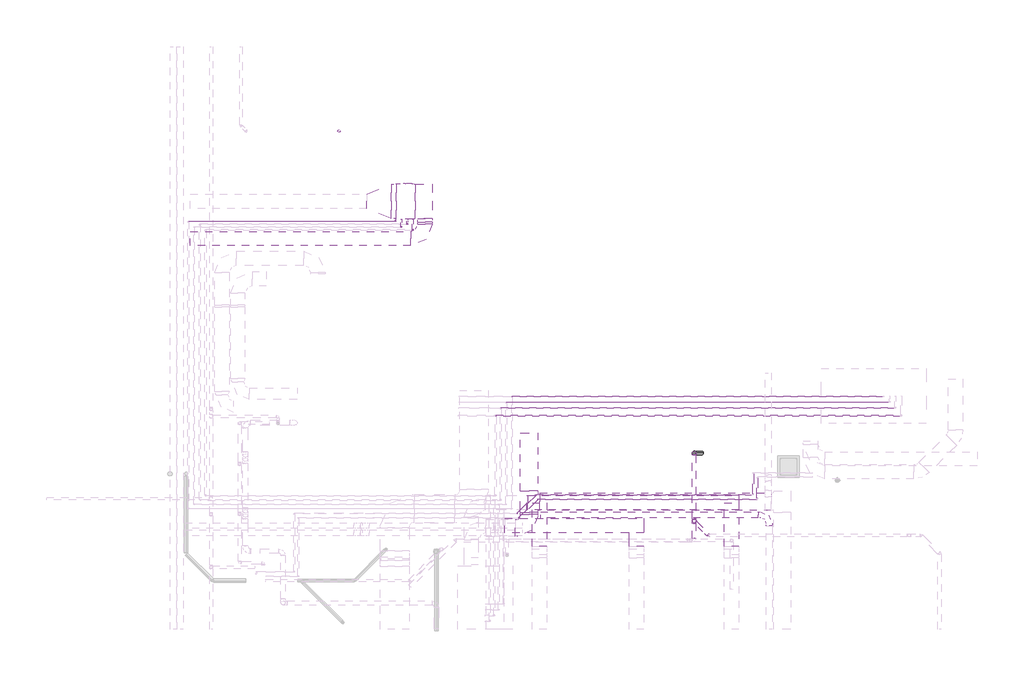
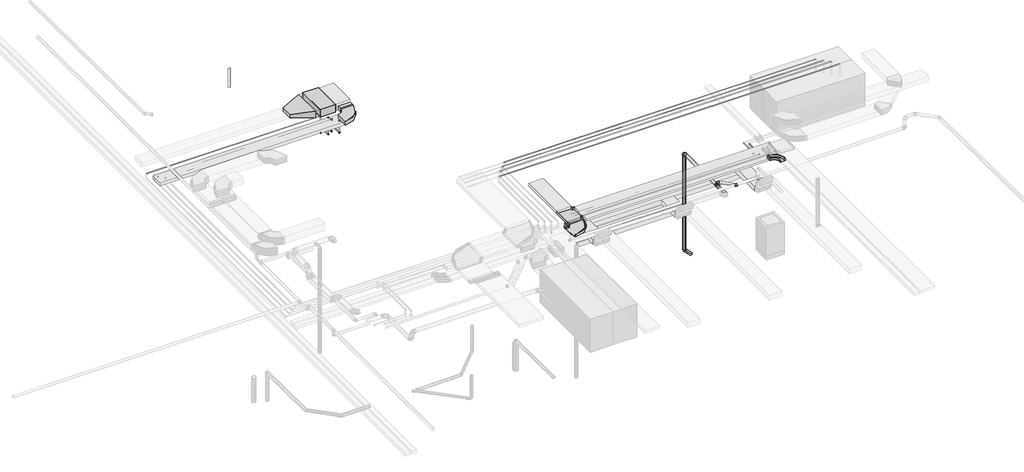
# One storey, part 6 of 10: 25 pipe segments, 18 pipe fittings, 9 duct segments, 4 cable carrier segments, 4 duct fittings, 3 cable carrier fittings, 1 proxy.
"""IFC4 building model written with IfcOpenShell, lengths in millimetres."""

from ifc_helpers import new_model, si_unit, point, frame, frame_2d, origin, place, context, project, spatial, polyline, circle_curve, trimmed, segment, composite_curve, outline, extrude, transform, mapped, element, save
from ifc_brep_helpers import plane_surface, cylinder_surface, advanced_brep
from components import fc02_2b9a1db2, el_radio_300_mm_80008d8d, m_codo_horizontal_de_canal_el_01cafb92, m_codo_horizontal_de_canal_el_e565bebe, duct_fitting_a85104f3, ext_ba5def94, m_codo_rectangular_radio_ext_1_w_33ef8804, m_codo_rectangular_radio_imp_1_w_3cf00d76, pipe_fitting_371413ad, pipe_fitting_52443cc6, pipe_fitting_2e86e572, pipe_fitting_70d1819a, pipe_fitting_d6cfa5ea, pipe_fitting_71d56335, pipe_fitting_754398a6, pipe_fitting_5e89c8c0, pipe_fitting_b0133e01, pipe_fitting_c06ac706

model = new_model("IFC4")

# Units and contexts
model_context = context("Model", 3, world=origin())
ifc_project = project(units=[si_unit("LENGTHUNIT", "METRE", prefix="MILLI")], contexts=[model_context])

# Site, building, storey
site = spatial("IfcSite", under=ifc_project)
building = spatial("IfcBuilding", under=site)
storey = spatial("IfcBuildingStorey", under=building, Name="Nivell 00 P00_PB", Elevation=6330.0)

# Proxy
placement = place(None, origin())
fc02_shape = fc02_2b9a1db2(model_context)
element("IfcBuildingElementProxy", 1, Name="ARC_MDL_ME_UI_FC_ConducteSostre : FC02", ObjectType="ARC_MDL_ME_UI_FC_ConducteSostre : FC02", at=placement, inside=storey, context=model_context, shape_type="MappedRepresentation", body=[
    mapped(fc02_shape, transform((12181.3112528, -4290.0392002, 10480.0), x_axis=(-5.108879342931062e-05, -0.9999999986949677, 0.0), y_axis=(0.9999999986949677, -5.108879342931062e-05, 0.0), z_axis=(0.0, 0.0, 1.0))),
])

# Cable carrier fittings
el_radio_300_mm_shape = el_radio_300_mm_80008d8d(model_context)
element("IfcCableCarrierFitting", 2, ObjectType="M_Te horizontal de canal : EL_Radio 300 mm", at=placement, inside=storey, context=model_context, shape_type="MappedRepresentation", body=[
    mapped(el_radio_300_mm_shape, transform((16481.7684896, -14725.0486096, 10510.0), x_axis=(0.0, 1.0, 0.0), y_axis=(-1.0, 0.0, 0.0), z_axis=(0.0, 0.0, 1.0))),
])
m_codo_horizontal_de_canal_el_shape = m_codo_horizontal_de_canal_el_01cafb92(model_context)
element("IfcCableCarrierFitting", 3, ObjectType="M_Codo horizontal de canal : EL", at=placement, inside=storey, context=model_context, shape_type="MappedRepresentation", body=[
    mapped(m_codo_horizontal_de_canal_el_shape, transform((24821.5359498, -15191.1353243, 10510.0), x_axis=(0.0, 1.0, 0.0), y_axis=(-1.0, 0.0, 0.0), z_axis=(0.0, 0.0, 1.0))),
])
m_codo_horizontal_de_canal_el_2_shape = m_codo_horizontal_de_canal_el_e565bebe(model_context)
element("IfcCableCarrierFitting", 4, ObjectType="M_Codo horizontal de canal : EL", at=placement, inside=storey, context=model_context, shape_type="MappedRepresentation", body=[
    mapped(m_codo_horizontal_de_canal_el_2_shape, transform((16481.7684896, -15638.881498, 10510.0), x_axis=(1.0, 0.0, 0.0), y_axis=(0.0, 1.0, 0.0), z_axis=(0.0, 0.0, 1.0))),
])

# Cable carrier segments
element("IfcCableCarrierSegment", 5, ObjectType="EL", at=placement, inside=storey, context=model_context, shape_type="SweptSolid", body=[
    extrude(outline(polyline([(16781.7684896, -14349.0486096), (16181.7684896, -14349.0486096), (16181.7684896, -12338.9944753), (16781.7684896, -12338.9944753), (16781.7684896, -14349.0486096)])), frame((0.0, 0.0, 10460.0), z_axis=(0.0, 0.0, 1.0), x_axis=(1.0, 0.0, 0.0)), (0.0, 0.0, 1.0), 100.0),
])
element("IfcCableCarrierSegment", 6, ObjectType="EL", at=placement, inside=storey, context=model_context, shape_type="SweptSolid", body=[
    extrude(outline(polyline([(24894.9823979, -14425.0486096), (24894.9823979, -15025.0486096), (16857.7684896, -15025.0486096), (16857.7684896, -14425.0486096), (24894.9823979, -14425.0486096)])), frame((0.0, 0.0, 10460.0), z_axis=(0.0, 0.0, 1.0), x_axis=(1.0, 0.0, 0.0)), (0.0, 0.0, 1.0), 100.0),
])
element("IfcCableCarrierSegment", 7, ObjectType="EL", at=placement, inside=storey, context=model_context, shape_type="SweptSolid", body=[
    extrude(outline(polyline([(16781.7684896, -15163.881498), (16181.7684896, -15163.881498), (16181.7684896, -15101.0486096), (16781.7684896, -15101.0486096), (16781.7684896, -15163.881498)])), frame((0.0, 0.0, 10460.0), z_axis=(0.0, 0.0, 1.0), x_axis=(1.0, 0.0, 0.0)), (0.0, 0.0, 1.0), 100.0),
])
element("IfcCableCarrierSegment", 8, ObjectType="EL", at=placement, inside=storey, context=model_context, shape_type="SweptSolid", body=[
    extrude(outline(polyline([(24446.5359498, -15091.1353243), (24446.5359498, -15291.1353243), (16881.7684896, -15291.1353243), (16881.7684896, -15091.1353243), (24446.5359498, -15091.1353243)])), frame((0.0, 0.0, 10460.0), z_axis=(0.0, 0.0, 1.0), x_axis=(1.0, 0.0, 0.0)), (0.0, 0.0, 1.0), 100.0),
])

# Duct fittings
duct_fitting_shape = duct_fitting_a85104f3(model_context)
element("IfcDuctFitting", 9, ObjectType="M_Transición rectangular - Ángulo : EXT_45 graus", at=placement, inside=storey, context=model_context, shape_type="MappedRepresentation", body=[
    mapped(duct_fitting_shape, transform((11691.1365641, -4290.0141577, 10637.5), x_axis=(-0.9999999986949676, 5.1088793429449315e-05, 0.0), y_axis=(-5.1088793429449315e-05, -0.9999999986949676, 0.0), z_axis=(0.0, 0.0, 1.0))),
])
ext_shape = ext_ba5def94(model_context)
element("IfcDuctFitting", 10, ObjectType="M_Toma de derivación rectangular : EXT", at=placement, inside=storey, context=model_context, shape_type="MappedRepresentation", body=[
    mapped(ext_shape, transform((12873.311255, -4890.0566725, 10587.5), x_axis=(0.0, -1.0, 0.0), y_axis=(-1.0, 0.0, 0.0), z_axis=(0.0, 0.0, -1.0))),
])
m_codo_rectangular_radio_ext_1_w_shape = m_codo_rectangular_radio_ext_1_w_33ef8804(model_context)
element("IfcDuctFitting", 11, ObjectType="M_Codo rectangular - Radio : EXT_1 W", at=placement, inside=storey, context=model_context, shape_type="MappedRepresentation", body=[
    mapped(m_codo_rectangular_radio_ext_1_w_shape, transform((12873.311255, -5586.5453487, 10587.5), x_axis=(1.0, 0.0, 0.0), y_axis=(0.0, 1.0, 0.0), z_axis=(0.0, 0.0, 1.0))),
])
m_codo_rectangular_radio_imp_1_w_shape = m_codo_rectangular_radio_imp_1_w_3cf00d76(model_context)
element("IfcDuctFitting", 12, ObjectType="M_Codo rectangular - Radio : IMP_1 W", at=placement, inside=storey, context=model_context, shape_type="MappedRepresentation", body=[
    mapped(m_codo_rectangular_radio_imp_1_w_shape, transform((16423.3650067, -14763.9966623, 9974.1161837), x_axis=(0.9953890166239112, 0.0, -0.09592030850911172), y_axis=(0.09592030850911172, 0.0, 0.9953890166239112), z_axis=(0.0, -1.0, 0.0))),
])

# Duct segments
element("IfcDuctSegment", 13, ObjectType="EXT_Planxa galvanitzada", at=placement, inside=storey, context=model_context, shape_type="SweptSolid", body=[
    extrude(outline(polyline([(12523.311255, -4890.0566725), (12523.311255, -3690.0566725), (13123.311255, -3690.0566725), (13123.311255, -4890.0566725), (12523.311255, -4890.0566725)])), frame((0.0, 0.0, 10500.0), z_axis=(0.0, 0.0, 1.0), x_axis=(1.0, 0.0, 0.0)), (0.0, 0.0, 1.0), 275.0),
])
element("IfcDuctSegment", 14, ObjectType="EXT_Planxa galvanitzada", at=placement, inside=storey, context=model_context, shape_type="SweptSolid", body=[
    extrude(outline(polyline([(4721.3474083, -5836.599281), (4721.3438842, -5336.599281), (12373.3094929, -5336.5453487), (12373.313017, -5836.5453487), (4721.3474083, -5836.599281)])), frame((0.0, 0.0, 10512.5), z_axis=(0.0, 0.0, 1.0), x_axis=(1.0, 0.0, 0.0)), (0.0, 0.0, 1.0), 150.0),
])
element("IfcDuctSegment", 15, ObjectType="EXT_Planxa galvanitzada", at=placement, inside=storey, context=model_context, shape_type="SweptSolid", body=[
    extrude(outline(polyline([(13123.311255, -5086.5453487), (12623.311255, -5086.5453487), (12623.311255, -5015.0566725), (13123.311255, -5015.0566725), (13123.311255, -5086.5453487)])), frame((0.0, 0.0, 10512.5), z_axis=(0.0, 0.0, 1.0), x_axis=(1.0, 0.0, 0.0)), (0.0, 0.0, 1.0), 150.0),
])
element("IfcDuctSegment", 16, ObjectType="EXT_Planxa galvanitzada", at=placement, inside=storey, context=model_context, shape_type="SweptSolid", body=[
    extrude(outline(polyline([(11866.3419065, -3690.023108), (11866.2805999, -4890.0231064), (11691.1059109, -4890.0141569), (11691.1672174, -3690.0141585), (11866.3419065, -3690.023108)])), frame((0.0, 0.0, 10500.0), z_axis=(0.0, 0.0, 1.0), x_axis=(1.0, 0.0, 0.0)), (0.0, 0.0, 1.0), 275.0),
])
element("IfcDuctSegment", 17, ObjectType="IMP_Fibra de vidre rígida", at=placement, inside=storey, context=model_context, shape_type="SweptSolid", body=[
    extrude(outline(polyline([(16432.979203, -15013.9966623), (16432.979203, -14513.9966623), (23764.812091, -14513.9966623), (23764.812091, -15013.9966623), (16432.979203, -15013.9966623)])), frame((0.0, 0.0, 9874.1161837), z_axis=(0.0, 0.0, 1.0), x_axis=(1.0, 0.0, 0.0)), (0.0, 0.0, 1.0), 200.0),
])
element("IfcDuctSegment", 18, ObjectType="IMP_Fibra de vidre rígida", at=placement, inside=storey, context=model_context, shape_type="SweptSolid", body=[
    extrude(outline(polyline([(20463.0832095, -15313.9966623), (20463.0832095, -15813.9966623), (15627.8514862, -15813.9966623), (15627.8514862, -15313.9966623), (20463.0832095, -15313.9966623)])), frame((0.0, 0.0, 9874.1161837), z_axis=(0.0, 0.0, 1.0), x_axis=(1.0, 0.0, 0.0)), (0.0, 0.0, 1.0), 200.0),
])
element("IfcDuctSegment", 19, ObjectType="IMP_Fibra de vidre rígida", at=placement, inside=storey, context=model_context, shape_type="SweptSolid", body=[
    extrude(outline(polyline([(17090.3123465, -16273.9966623), (16590.3123465, -16273.9966623), (16590.3123465, -14763.9966623), (17090.3123465, -14763.9966623), (17090.3123465, -16273.9966623)])), frame((0.0, 0.0, 10130.0), z_axis=(0.0, 0.0, 1.0), x_axis=(1.0, 0.0, 0.0)), (0.0, 0.0, 1.0), 200.0),
])
element("IfcDuctSegment", 20, ObjectType="IMP_Fibra de vidre rígida", at=placement, inside=storey, context=model_context, shape_type="SweptSolid", body=[
    extrude(outline(polyline([(20463.0832095, -16273.9966623), (19963.0832095, -16273.9966623), (19963.0832095, -15313.9966623), (20463.0832095, -15313.9966623), (20463.0832095, -16273.9966623)])), frame((0.0, 0.0, 10130.0), z_axis=(0.0, 0.0, 1.0), x_axis=(1.0, 0.0, 0.0)), (0.0, 0.0, 1.0), 200.0),
])
element("IfcDuctSegment", 21, ObjectType="IMP_Fibra de vidre rígida", at=placement, inside=storey, context=model_context, shape_type="SweptSolid", body=[
    extrude(outline(polyline([(23764.812091, -16273.9966623), (23264.812091, -16273.9966623), (23264.812091, -14763.9966623), (23764.812091, -14763.9966623), (23764.812091, -16273.9966623)])), frame((0.0, 0.0, 10130.0), z_axis=(0.0, 0.0, 1.0), x_axis=(1.0, 0.0, 0.0)), (0.0, 0.0, 1.0), 200.0),
])

# Pipe fittings
pipe_fitting_shape = pipe_fitting_371413ad(model_context)
element("IfcPipeFitting", 22, ObjectType="M_Codo - Genérico : Estándar", at=placement, inside=storey, context=model_context, shape_type="MappedRepresentation", body=[
    mapped(pipe_fitting_shape, transform((12244.9862258, -5085.4098622, 9810.0), x_axis=(-5.1088793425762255e-05, -0.9999999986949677, 0.0), y_axis=(0.0, 0.0, 1.0000000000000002), z_axis=(-0.9999999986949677, 5.1088793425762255e-05, 0.0))),
])
element("IfcPipeFitting", 23, ObjectType="M_Codo - Genérico : Estándar", at=placement, inside=storey, context=model_context, shape_type="MappedRepresentation", body=[
    mapped(pipe_fitting_shape, transform((12244.9862258, -5085.4098621, 10360.0), x_axis=(0.0, 0.0, 1.0), y_axis=(-0.9999999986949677, 5.108879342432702e-05, 0.0), z_axis=(-5.108879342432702e-05, -0.9999999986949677, 0.0))),
])
element("IfcPipeFitting", 24, ObjectType="M_Codo - Genérico : Estándar", at=placement, inside=storey, context=model_context, shape_type="MappedRepresentation", body=[
    mapped(pipe_fitting_shape, transform((12444.9969738, -5285.4409702, 9810.0), x_axis=(-5.108879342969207e-05, -0.9999999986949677, 0.0), y_axis=(0.0, 0.0, 1.0000000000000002), z_axis=(-0.9999999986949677, 5.108879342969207e-05, 0.0))),
])
element("IfcPipeFitting", 25, ObjectType="M_Codo - Genérico : Estándar", at=placement, inside=storey, context=model_context, shape_type="MappedRepresentation", body=[
    mapped(pipe_fitting_shape, transform((12444.9969738, -5285.4409701, 10360.0), x_axis=(0.0, 0.0, 1.0), y_axis=(-0.9999999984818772, 5.510214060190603e-05, 0.0), z_axis=(-5.510214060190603e-05, -0.9999999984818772, 0.0))),
])
pipe_fitting_2_shape = pipe_fitting_52443cc6(model_context)
element("IfcPipeFitting", 26, ObjectType="M_Codo - Genérico : Estándar", at=placement, inside=storey, context=model_context, shape_type="MappedRepresentation", body=[
    mapped(pipe_fitting_2_shape, transform((16069.0021338, -15144.0618162, 10363.0088186), x_axis=(1.0, 0.0, 0.0), y_axis=(0.0, 1.0, 0.0), z_axis=(0.0, 0.0, 1.0))),
])
element("IfcPipeFitting", 27, ObjectType="M_Codo - Genérico : Estándar", at=placement, inside=storey, context=model_context, shape_type="MappedRepresentation", body=[
    mapped(pipe_fitting_2_shape, transform((16719.0021452, -14494.0618048, 10363.0088186), x_axis=(-1.0, 0.0, 0.0), y_axis=(0.0, -1.0, 0.0), z_axis=(0.0, 0.0, 1.0))),
])
element("IfcPipeFitting", 28, ObjectType="M_Codo - Genérico : Estándar", at=placement, inside=storey, context=model_context, shape_type="MappedRepresentation", body=[
    mapped(pipe_fitting_2_shape, transform((16131.1343664, -15294.0616179, 10363.0088186), x_axis=(1.0, 0.0, 0.0), y_axis=(0.0, 1.0, 0.0), z_axis=(0.0, 0.0, 1.0))),
])
pipe_fitting_3_shape = pipe_fitting_2e86e572(model_context)
element("IfcPipeFitting", 29, ObjectType="M_Codo - Genérico : Estándar", at=placement, inside=storey, context=model_context, shape_type="MappedRepresentation", body=[
    mapped(pipe_fitting_3_shape, transform((16781.1343005, -14644.0616838, 10363.0088186), x_axis=(-1.0, 1.1622379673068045e-08, 0.0), y_axis=(-1.1622379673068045e-08, -1.0, 0.0), z_axis=(0.0, 0.0, 1.0))),
])
pipe_fitting_4_shape = pipe_fitting_70d1819a(model_context)
element("IfcPipeFitting", 30, ObjectType="M_Transición - Genérica : Estándar", at=placement, inside=storey, context=model_context, shape_type="MappedRepresentation", body=[
    mapped(pipe_fitting_4_shape, transform((22211.9752462, -15400.6940396, 10297.2895225), x_axis=(0.0, 0.0, 1.0), y_axis=(1.0, 0.0, 0.0), z_axis=(0.0, 1.0, 0.0))),
])
pipe_fitting_5_shape = pipe_fitting_d6cfa5ea(model_context)
element("IfcPipeFitting", 31, ObjectType="M_Codo - Genérico : Estándar", at=placement, inside=storey, context=model_context, shape_type="MappedRepresentation", body=[
    mapped(pipe_fitting_5_shape, transform((22211.9752462, -13037.7395242, 5980.0), x_axis=(0.0, 0.0, -1.0), y_axis=(1.0, 0.0, 0.0), z_axis=(0.0, -1.0, 0.0))),
])
pipe_fitting_6_shape = pipe_fitting_71d56335(model_context)
element("IfcPipeFitting", 32, ObjectType="M_Codo - Genérico : Estándar", at=placement, inside=storey, context=model_context, shape_type="MappedRepresentation", body=[
    mapped(pipe_fitting_6_shape, transform((22211.9752462, -15400.6940396, 10362.9891151), x_axis=(0.0, 0.0, 1.0), y_axis=(0.7071067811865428, -0.7071067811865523, 0.0), z_axis=(0.7071067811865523, 0.7071067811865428, 0.0))),
])
pipe_fitting_7_shape = pipe_fitting_754398a6(model_context)
element("IfcPipeFitting", 33, ObjectType="M_Codo - Genérico : Estándar", at=placement, inside=storey, context=model_context, shape_type="MappedRepresentation", body=[
    mapped(pipe_fitting_7_shape, transform((22710.255545, -15898.9743384, 10370.0), x_axis=(0.707071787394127, -0.707071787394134, 0.009948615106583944), y_axis=(0.7070710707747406, 0.7071300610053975, 0.0041925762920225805), z_axis=(-0.009999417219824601, 0.004069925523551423, 0.9999417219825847))),
])
pipe_fitting_8_shape = pipe_fitting_5e89c8c0(model_context)
element("IfcPipeFitting", 34, ObjectType="M_Codo - Genérico : Estándar", at=placement, inside=storey, context=model_context, shape_type="MappedRepresentation", body=[
    mapped(pipe_fitting_8_shape, transform((22211.9752462, -13037.7395242, 10195.8839232), x_axis=(0.0, 0.9999500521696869, -0.009994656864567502), y_axis=(0.0, -0.009994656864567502, -0.9999500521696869), z_axis=(-1.0, 0.0, 0.0))),
])
pipe_fitting_9_shape = pipe_fitting_b0133e01(model_context)
element("IfcPipeFitting", 35, ObjectType="M_Te - Genérica : Estándar", at=placement, inside=storey, context=model_context, shape_type="MappedRepresentation", body=[
    mapped(pipe_fitting_9_shape, transform((22211.9752462, -15400.6940396, 10219.5020225), x_axis=(0.0, -0.9999500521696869, 0.009994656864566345), y_axis=(0.0, -0.009994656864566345, -0.9999500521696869), z_axis=(1.0, 0.0, 0.0))),
])
pipe_fitting_10_shape = pipe_fitting_c06ac706(model_context)
element("IfcPipeFitting", 36, ObjectType="M_Codo - Genérico : Estándar", at=placement, inside=storey, context=model_context, shape_type="MappedRepresentation", body=[
    mapped(pipe_fitting_10_shape, transform((11844.9668462, -4985.3732795, 9817.5), x_axis=(-5.108879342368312e-05, -0.9999999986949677, 0.0), y_axis=(0.0, 0.0, 1.0000000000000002), z_axis=(-0.9999999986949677, 5.108879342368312e-05, 0.0))),
])
element("IfcPipeFitting", 37, ObjectType="M_Codo - Genérico : Estándar", at=placement, inside=storey, context=model_context, shape_type="MappedRepresentation", body=[
    mapped(pipe_fitting_10_shape, transform((12044.9759983, -5185.3892996, 9817.5), x_axis=(-5.108879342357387e-05, -0.9999999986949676, 0.0), y_axis=(0.0, 0.0, 1.0), z_axis=(-0.9999999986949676, 5.108879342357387e-05, 0.0))),
])
element("IfcPipeFitting", 38, ObjectType="M_Codo - Genérico : Estándar", at=placement, inside=storey, context=model_context, shape_type="MappedRepresentation", body=[
    mapped(pipe_fitting_10_shape, transform((12044.9759983, -5185.3892996, 10567.5), x_axis=(0.0, 0.0, 1.0), y_axis=(-0.9999999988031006, 4.892646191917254e-05, 0.0), z_axis=(-4.892646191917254e-05, -0.9999999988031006, 0.0))),
])
element("IfcPipeFitting", 39, ObjectType="M_Codo - Genérico : Estándar", at=placement, inside=storey, context=model_context, shape_type="MappedRepresentation", body=[
    mapped(pipe_fitting_10_shape, transform((11844.9668462, -4985.3732795, 10567.5), x_axis=(0.0, 0.0, 1.0), y_axis=(-0.9999999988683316, 4.75745428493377e-05, 0.0), z_axis=(-4.75745428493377e-05, -0.9999999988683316, 0.0))),
])

# Pipe segments
element("IfcPipeSegment", 40, ObjectType="PPR_CLI_Aquatherm Blue Pipe", at=placement, inside=storey, context=model_context, shape_type="SweptSolid", body=[
    extrude(outline(composite_curve([segment(trimmed(circle_curve(frame_2d((0.0, -12.5)), 12.5), [point((-12.5, -12.5))], [point((0.0, 0.0))], False, "CARTESIAN"), True, "CONTINUOUS"), segment(trimmed(circle_curve(frame_2d((0.0, -12.5)), 12.5), [point((0.0, 0.0))], [point((12.5, -12.5))], False, "CARTESIAN"), True, "CONTINUOUS"), segment(trimmed(circle_curve(frame_2d((0.0, -12.5)), 12.5), [point((12.5, -12.5))], [point((0.0, -25.0))], False, "CARTESIAN"), True, "CONTINUOUS"), segment(trimmed(circle_curve(frame_2d((0.0, -12.5)), 12.5), [point((0.0, -25.0))], [point((-12.5, -12.5))], False, "CARTESIAN"), True, "CONTINUOUS")], self_intersect=False)), frame((11824.3293462, -4985.3722977, 10555.0), z_axis=(-0.9999999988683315, 4.757454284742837e-05, 0.0), x_axis=(4.757454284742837e-05, 0.9999999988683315, 0.0)), (0.0, 0.0, 1.0), 7157.9868192),
])
element("IfcPipeSegment", 41, ObjectType="PPR_CLI_Aquatherm Blue Pipe", at=placement, inside=storey, context=model_context, shape_type="SweptSolid", body=[
    extrude(outline(composite_curve([segment(trimmed(circle_curve(frame_2d((0.0, 12.5)), 12.5), [point((-12.5, 12.5))], [point((0.0, 25.0))], False, "CARTESIAN"), True, "CONTINUOUS"), segment(trimmed(circle_curve(frame_2d((0.0, 12.5)), 12.5), [point((0.0, 25.0))], [point((12.5, 12.5))], False, "CARTESIAN"), True, "CONTINUOUS"), segment(trimmed(circle_curve(frame_2d((0.0, 12.5)), 12.5), [point((12.5, 12.5))], [point((0.0, 0.0))], False, "CARTESIAN"), True, "CONTINUOUS"), segment(trimmed(circle_curve(frame_2d((0.0, 12.5)), 12.5), [point((0.0, 0.0))], [point((-12.5, 12.5))], False, "CARTESIAN"), True, "CONTINUOUS")], self_intersect=False)), frame((28778.9216972, -11074.9742269, 10797.5), z_axis=(-0.9999999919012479, 0.00012726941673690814, 0.0), x_axis=(-0.00012726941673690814, -0.9999999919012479, 0.0)), (0.0, 0.0, 1.0), 12876.7618539),
])
element("IfcPipeSegment", 42, ObjectType="PVC_Baixant", at=placement, inside=storey, context=model_context, shape_type="SweptSolid", body=[
    extrude(outline(composite_curve([segment(trimmed(circle_curve(frame_2d((0.0, 45.0)), 45.0), [point((-45.0, 45.0))], [point((0.0, 90.0))], False, "CARTESIAN"), True, "CONTINUOUS"), segment(trimmed(circle_curve(frame_2d((0.0, 45.0)), 45.0), [point((0.0, 90.0))], [point((45.0, 45.0))], False, "CARTESIAN"), True, "CONTINUOUS"), segment(trimmed(circle_curve(frame_2d((0.0, 45.0)), 45.0), [point((45.0, 45.0))], [point((0.0, 0.0))], False, "CARTESIAN"), True, "CONTINUOUS"), segment(trimmed(circle_curve(frame_2d((0.0, 45.0)), 45.0), [point((0.0, 0.0))], [point((-45.0, 45.0))], False, "CARTESIAN"), True, "CONTINUOUS")], self_intersect=False)), frame((9883.2046186, -1896.555082, 10633.2828533), z_axis=(-2.4929048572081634e-05, 8.365023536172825e-06, 0.9999999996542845), x_axis=(0.9999999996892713, 2.0853185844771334e-10, 2.4929048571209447e-05)), (0.0, 0.0, 1.0), 796.7175297),
])
element("IfcPipeSegment", 43, ObjectType="PPR_CLI_Aquatherm Blue Pipe", at=placement, inside=storey, context=model_context, shape_type="SweptSolid", body=[
    extrude(outline(composite_curve([segment(trimmed(circle_curve(frame_2d((0.0, -12.5)), 12.5), [point((-12.5, -12.5))], [point((0.0, 0.0))], False, "CARTESIAN"), True, "CONTINUOUS"), segment(trimmed(circle_curve(frame_2d((0.0, -12.5)), 12.5), [point((0.0, 0.0))], [point((12.5, -12.5))], False, "CARTESIAN"), True, "CONTINUOUS"), segment(trimmed(circle_curve(frame_2d((0.0, -12.5)), 12.5), [point((12.5, -12.5))], [point((0.0, -25.0))], False, "CARTESIAN"), True, "CONTINUOUS"), segment(trimmed(circle_curve(frame_2d((0.0, -12.5)), 12.5), [point((0.0, -25.0))], [point((-12.5, -12.5))], False, "CARTESIAN"), True, "CONTINUOUS")], self_intersect=False)), frame((28978.9217099, -11275.7182222, 10797.5), z_axis=(-0.9999999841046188, 0.00017829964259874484, 0.0), x_axis=(0.00017829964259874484, 0.9999999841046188, 0.0)), (0.0, 0.0, 1.0), 13276.770731),
])
element("IfcPipeSegment", 44, ObjectType="PPR_CLI_Aquatherm Blue Pipe", at=placement, inside=storey, context=model_context, shape_type="SweptSolid", body=[
    extrude(outline(composite_curve([segment(trimmed(circle_curve(frame_2d((0.0, 20.0)), 20.0), [point((-20.0, 20.0))], [point((0.0, 40.0))], False, "CARTESIAN"), True, "CONTINUOUS"), segment(trimmed(circle_curve(frame_2d((0.0, 20.0)), 20.0), [point((0.0, 40.0))], [point((20.0, 20.0))], False, "CARTESIAN"), True, "CONTINUOUS"), segment(trimmed(circle_curve(frame_2d((0.0, 20.0)), 20.0), [point((20.0, 20.0))], [point((0.0, 0.0))], False, "CARTESIAN"), True, "CONTINUOUS"), segment(trimmed(circle_curve(frame_2d((0.0, 20.0)), 20.0), [point((0.0, 0.0))], [point((-20.0, 20.0))], False, "CARTESIAN"), True, "CONTINUOUS")], self_intersect=False)), frame((29172.5716841, -11473.4382958, 10790.0), z_axis=(-0.9999999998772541, 1.5668184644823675e-05, 0.0), x_axis=(-1.5668184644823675e-05, -0.9999999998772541, 0.0)), (0.0, 0.0, 1.0), 13655.4275415),
])
element("IfcPipeSegment", 45, ObjectType="PPR_CLI_Aquatherm Blue Pipe", at=placement, inside=storey, context=model_context, shape_type="SweptSolid", body=[
    extrude(outline(composite_curve([segment(trimmed(circle_curve(frame_2d((0.0, 20.0)), 20.0), [point((-20.0, 20.0))], [point((0.0, 40.0))], False, "CARTESIAN"), True, "CONTINUOUS"), segment(trimmed(circle_curve(frame_2d((0.0, 20.0)), 20.0), [point((0.0, 40.0))], [point((20.0, 20.0))], False, "CARTESIAN"), True, "CONTINUOUS"), segment(trimmed(circle_curve(frame_2d((0.0, 20.0)), 20.0), [point((20.0, 20.0))], [point((0.0, 0.0))], False, "CARTESIAN"), True, "CONTINUOUS"), segment(trimmed(circle_curve(frame_2d((0.0, 20.0)), 20.0), [point((0.0, 0.0))], [point((-20.0, 20.0))], False, "CARTESIAN"), True, "CONTINUOUS")], self_intersect=False)), frame((29372.5716841, -11743.4408895, 10790.0), z_axis=(-0.9999999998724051, 1.5974667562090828e-05, 0.0), x_axis=(-1.5974667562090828e-05, -0.9999999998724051, 0.0)), (0.0, 0.0, 1.0), 14035.4375242),
])
element("IfcPipeSegment", 46, ObjectType="PPR_CLI_Aquatherm Blue Pipe", at=placement, inside=storey, context=model_context, shape_type="SweptSolid", body=[
    extrude(outline(composite_curve([segment(trimmed(circle_curve(frame_2d((0.0, -20.0)), 20.0), [point((0.0, 0.0))], [point((20.0, -20.0))], False, "CARTESIAN"), True, "CONTINUOUS"), segment(trimmed(circle_curve(frame_2d((0.0, -20.0)), 20.0), [point((20.0, -20.0))], [point((0.0, -39.9999999))], False, "CARTESIAN"), True, "CONTINUOUS"), segment(trimmed(circle_curve(frame_2d((0.0, -20.0)), 20.0), [point((0.0, -39.9999999))], [point((-20.0, -20.0))], False, "CARTESIAN"), True, "CONTINUOUS"), segment(trimmed(circle_curve(frame_2d((0.0, -20.0)), 20.0), [point((-20.0, -20.0))], [point((0.0, 0.0))], False, "CARTESIAN"), True, "CONTINUOUS")], self_intersect=False)), frame((12424.9983526, -5258.4525866, 9810.0), z_axis=(4.4180028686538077e-05, 0.9999999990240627, 0.0), x_axis=(0.0, 0.0, -1.0)), (0.0, 0.0, 1.0), 348.543846),
])
element("IfcPipeSegment", 47, ObjectType="PPR_CLI_Aquatherm Blue Pipe", at=placement, inside=storey, context=model_context, shape_type="SweptSolid", body=[
    extrude(outline(composite_curve([segment(trimmed(circle_curve(frame_2d((0.0, -20.0)), 20.0), [point((0.0, 0.0))], [point((20.0, -20.0))], False, "CARTESIAN"), True, "CONTINUOUS"), segment(trimmed(circle_curve(frame_2d((0.0, -20.0)), 20.0), [point((20.0, -20.0))], [point((0.0, -40.0000001))], False, "CARTESIAN"), True, "CONTINUOUS"), segment(trimmed(circle_curve(frame_2d((0.0, -20.0)), 20.0), [point((0.0, -40.0000001))], [point((-20.0, -20.0))], False, "CARTESIAN"), True, "CONTINUOUS"), segment(trimmed(circle_curve(frame_2d((0.0, -20.0)), 20.0), [point((-20.0, -20.0))], [point((0.0, 0.0))], False, "CARTESIAN"), True, "CONTINUOUS")], self_intersect=False)), frame((12224.9876045, -5058.4213405, 9810.0), z_axis=(5.108879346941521e-05, 0.9999999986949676, 0.0), x_axis=(0.0, 0.0, -1.0)), (0.0, 0.0, 1.0), 148.5229565),
])
element("IfcPipeSegment", 48, ObjectType="PPR_CLI_Aquatherm Blue Pipe", at=placement, inside=storey, context=model_context, shape_type="SweptSolid", body=[
    extrude(outline(composite_curve([segment(trimmed(circle_curve(frame_2d((0.0, -12.5)), 12.5), [point((0.0, 0.0))], [point((12.5, -12.5))], False, "CARTESIAN"), True, "CONTINUOUS"), segment(trimmed(circle_curve(frame_2d((0.0, -12.5)), 12.5), [point((12.5, -12.5))], [point((0.0, -25.0))], False, "CARTESIAN"), True, "CONTINUOUS"), segment(trimmed(circle_curve(frame_2d((0.0, -12.5)), 12.5), [point((0.0, -25.0))], [point((-12.5, -12.5))], False, "CARTESIAN"), True, "CONTINUOUS"), segment(trimmed(circle_curve(frame_2d((0.0, -12.5)), 12.5), [point((-12.5, -12.5))], [point((0.0, 0.0))], False, "CARTESIAN"), True, "CONTINUOUS")], self_intersect=False)), frame((12032.4770527, -5164.7518491, 9817.5), z_axis=(-3.957353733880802e-06, 0.9999999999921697, 0.0), x_axis=(0.0, 0.0, -1.0)), (0.0, 0.0, 1.0), 254.8626124),
])
element("IfcPipeSegment", 49, ObjectType="PPR_CLI_Aquatherm Blue Pipe", at=placement, inside=storey, context=model_context, shape_type="SweptSolid", body=[
    extrude(outline(composite_curve([segment(trimmed(circle_curve(frame_2d((0.0, -12.5)), 12.5), [point((0.0, 0.0))], [point((12.5, -12.5))], False, "CARTESIAN"), True, "CONTINUOUS"), segment(trimmed(circle_curve(frame_2d((0.0, -12.5)), 12.5), [point((12.5, -12.5))], [point((0.0, -25.0))], False, "CARTESIAN"), True, "CONTINUOUS"), segment(trimmed(circle_curve(frame_2d((0.0, -12.5)), 12.5), [point((0.0, -25.0))], [point((-12.5, -12.5))], False, "CARTESIAN"), True, "CONTINUOUS"), segment(trimmed(circle_curve(frame_2d((0.0, -12.5)), 12.5), [point((-12.5, -12.5))], [point((0.0, 0.0))], False, "CARTESIAN"), True, "CONTINUOUS")], self_intersect=False)), frame((11832.4679008, -4964.7381529, 9817.5), z_axis=(-0.0001898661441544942, 0.9999999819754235, 0.0), x_axis=(0.0, 0.0, -1.0)), (0.0, 0.0, 1.0), 54.8568121),
])
element("IfcPipeSegment", 50, ObjectType="PPR_CLI_Aquatherm Blue Pipe", at=placement, inside=storey, context=model_context, shape_type="SweptSolid", body=[
    extrude(outline(composite_curve([segment(trimmed(circle_curve(frame_2d((11844.9668462, -4985.3732795)), 12.5), [point((11832.4668462, -4985.3732795))], [point((11844.9668462, -4972.8732795))], False, "CARTESIAN"), True, "CONTINUOUS"), segment(trimmed(circle_curve(frame_2d((11844.9668462, -4985.3732795)), 12.5), [point((11844.9668462, -4972.8732795))], [point((11857.4668462, -4985.3732795))], False, "CARTESIAN"), True, "CONTINUOUS"), segment(trimmed(circle_curve(frame_2d((11844.9668462, -4985.3732795)), 12.5), [point((11857.4668462, -4985.3732795))], [point((11844.9668462, -4997.8732795))], False, "CARTESIAN"), True, "CONTINUOUS"), segment(trimmed(circle_curve(frame_2d((11844.9668462, -4985.3732795)), 12.5), [point((11844.9668462, -4997.8732795))], [point((11832.4668462, -4985.3732795))], False, "CARTESIAN"), True, "CONTINUOUS")], self_intersect=False)), frame((0.0, 0.0, 9838.1375), z_axis=(0.0, 0.0, 1.0), x_axis=(1.0, 0.0, 0.0)), (0.0, 0.0, 1.0), 708.725),
])
element("IfcPipeSegment", 51, ObjectType="PPR_CLI_Aquatherm Blue Pipe", at=placement, inside=storey, context=model_context, shape_type="SweptSolid", body=[
    extrude(outline(composite_curve([segment(trimmed(circle_curve(frame_2d((12044.9759983, -5185.3892996)), 12.5), [point((12032.4759983, -5185.3892996))], [point((12044.9759983, -5172.8892996))], False, "CARTESIAN"), True, "CONTINUOUS"), segment(trimmed(circle_curve(frame_2d((12044.9759983, -5185.3892996)), 12.5), [point((12044.9759983, -5172.8892996))], [point((12057.4759983, -5185.3892996))], False, "CARTESIAN"), True, "CONTINUOUS"), segment(trimmed(circle_curve(frame_2d((12044.9759983, -5185.3892996)), 12.5), [point((12057.4759983, -5185.3892996))], [point((12044.9759983, -5197.8892996))], False, "CARTESIAN"), True, "CONTINUOUS"), segment(trimmed(circle_curve(frame_2d((12044.9759983, -5185.3892996)), 12.5), [point((12044.9759983, -5197.8892996))], [point((12032.4759983, -5185.3892996))], False, "CARTESIAN"), True, "CONTINUOUS")], self_intersect=False)), frame((0.0, 0.0, 9838.1375), z_axis=(0.0, 0.0, 1.0), x_axis=(1.0, 0.0, 0.0)), (0.0, 0.0, 1.0), 708.725),
])
element("IfcPipeSegment", 52, ObjectType="PPR_CLI_Aquatherm Blue Pipe", at=placement, inside=storey, context=model_context, shape_type="SweptSolid", body=[
    extrude(outline(composite_curve([segment(trimmed(circle_curve(frame_2d((12244.9862258, -5085.4098622)), 20.0), [point((12224.9862258, -5085.4098622))], [point((12244.9862258, -5065.4098622))], False, "CARTESIAN"), True, "CONTINUOUS"), segment(trimmed(circle_curve(frame_2d((12244.9862258, -5085.4098622)), 20.0), [point((12244.9862258, -5065.4098622))], [point((12264.9862258, -5085.4098622))], False, "CARTESIAN"), True, "CONTINUOUS"), segment(trimmed(circle_curve(frame_2d((12244.9862258, -5085.4098622)), 20.0), [point((12264.9862258, -5085.4098622))], [point((12244.9862258, -5105.4098622))], False, "CARTESIAN"), True, "CONTINUOUS"), segment(trimmed(circle_curve(frame_2d((12244.9862258, -5085.4098622)), 20.0), [point((12244.9862258, -5105.4098622))], [point((12224.9862258, -5085.4098622))], False, "CARTESIAN"), True, "CONTINUOUS")], self_intersect=False)), frame((0.0, 0.0, 9836.9875), z_axis=(0.0, 0.0, 1.0), x_axis=(1.0, 0.0, 0.0)), (0.0, 0.0, 1.0), 496.025),
])
element("IfcPipeSegment", 53, ObjectType="PPR_CLI_Aquatherm Blue Pipe", at=placement, inside=storey, context=model_context, shape_type="SweptSolid", body=[
    extrude(outline(composite_curve([segment(trimmed(circle_curve(frame_2d((12444.9969738, -5285.4409702)), 20.0), [point((12424.9969738, -5285.4409702))], [point((12444.9969738, -5265.4409702))], False, "CARTESIAN"), True, "CONTINUOUS"), segment(trimmed(circle_curve(frame_2d((12444.9969738, -5285.4409702)), 20.0), [point((12444.9969738, -5265.4409702))], [point((12464.9969738, -5285.4409702))], False, "CARTESIAN"), True, "CONTINUOUS"), segment(trimmed(circle_curve(frame_2d((12444.9969738, -5285.4409702)), 20.0), [point((12464.9969738, -5285.4409702))], [point((12444.9969738, -5305.4409702))], False, "CARTESIAN"), True, "CONTINUOUS"), segment(trimmed(circle_curve(frame_2d((12444.9969738, -5285.4409702)), 20.0), [point((12444.9969738, -5305.4409702))], [point((12424.9969738, -5285.4409702))], False, "CARTESIAN"), True, "CONTINUOUS")], self_intersect=False)), frame((0.0, 0.0, 9836.9875), z_axis=(0.0, 0.0, 1.0), x_axis=(1.0, 0.0, 0.0)), (0.0, 0.0, 1.0), 496.025),
])
element("IfcPipeSegment", 54, ObjectType="AN_CI", at=placement, inside=storey, context=model_context, shape_type="AdvancedBrep", body=[
    advanced_brep(
    [(24236.4402077, -14477.2117869, 10363.0088186), (24236.4402077, -14494.0617869, 10379.8588186), (24236.4402077, -14510.9117869, 10363.0088186), (24236.4402077, -14494.0617869, 10346.1588186), (16727.5504775, -14477.2118048, 10363.0088186), (16727.5504776, -14494.0618048, 10346.1588186), (16727.5504776, -14510.9118048, 10363.0088186), (16727.5504776, -14494.0618048, 10379.8588186)],
    [
        (0, 1, circle_curve(frame((24236.4402077, -14494.0617869, 10363.0088186), z_axis=(1.0, 0.0, 0.0), x_axis=(0.0, 1.0, 0.0)), 16.85)),
        (1, 2, circle_curve(frame((24236.4402077, -14494.0617869, 10363.0088186), z_axis=(1.0, 0.0, 0.0), x_axis=(0.0, 1.0, 0.0)), 16.85)),
        (2, 3, circle_curve(frame((24236.4402077, -14494.0617869, 10363.0088186), z_axis=(1.0, 0.0, 0.0), x_axis=(0.0, 1.0, 0.0)), 16.85)),
        (3, 0, circle_curve(frame((24236.4402077, -14494.0617869, 10363.0088186), z_axis=(1.0, 0.0, 0.0), x_axis=(0.0, 1.0, 0.0)), 16.85)),
        (4, 5, circle_curve(frame((16727.5504775, -14494.0617869, 10363.0088186), z_axis=(-1.0, 0.0, 0.0), x_axis=(0.0, 1.0, 0.0)), 16.8499821)),
        (5, 6, circle_curve(frame((16727.5504776, -14494.0617869, 10363.0088186), z_axis=(-1.0, 0.0, 0.0), x_axis=(0.0, 1.0, 0.0)), 16.85)),
        (6, 7, circle_curve(frame((16727.5504776, -14494.0617869, 10363.0088186), z_axis=(-1.0, 0.0, 0.0), x_axis=(0.0, 1.0, 0.0)), 16.8500179)),
        (7, 4, circle_curve(frame((16727.5504776, -14494.0617869, 10363.0088186), z_axis=(-1.0, 0.0, 0.0), x_axis=(0.0, 1.0, 0.0)), 16.85)),
        (0, 4),
        (7, 1),
        (6, 2),
        (5, 3),
    ],
    [
        plane_surface(frame((24236.4402077, -14494.0617869, 10346.1588186), z_axis=(1.0, 2.383643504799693e-09, 0.0), x_axis=(2.383643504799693e-09, -1.0, 0.0))),
        plane_surface(frame((16727.5504776, -14494.0618048, 10346.1588186), z_axis=(-1.0, -2.3836506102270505e-09, 0.0), x_axis=(2.3836506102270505e-09, -1.0, 0.0))),
        cylinder_surface(frame((24236.4402077, -14494.0617869, 10363.0088186), z_axis=(1.0, 0.0, 0.0), x_axis=(0.0, 1.0, 0.0)), 16.85),
    ],
    [
        (0, [[1, 2, 3, 4]]),
        (1, [[5, 6, 7, 8]]),
        (2, [[-1, 9, -8, 10]]),
        (2, [[-2, -10, -7, 11]]),
        (2, [[-3, -11, -6, 12]]),
        (2, [[-4, -12, -5, -9]]),
    ],
),
])
element("IfcPipeSegment", 55, ObjectType="AN_CI", at=placement, inside=storey, context=model_context, shape_type="SweptSolid", body=[
    extrude(outline(composite_curve([segment(trimmed(circle_curve(frame_2d((10363.0088186, 24257.0777077)), 16.85), [point((10363.0088186, 24273.9277077))], [point((10379.8588186, 24257.0777077))], False, "CARTESIAN"), True, "CONTINUOUS"), segment(trimmed(circle_curve(frame_2d((10363.0088186, 24257.0777077)), 16.85), [point((10379.8588186, 24257.0777077))], [point((10363.0088186, 24240.2277077))], False, "CARTESIAN"), True, "CONTINUOUS"), segment(trimmed(circle_curve(frame_2d((10363.0088186, 24257.0777077)), 16.85), [point((10363.0088186, 24240.2277077))], [point((10346.1588186, 24257.0777077))], False, "CARTESIAN"), True, "CONTINUOUS"), segment(trimmed(circle_curve(frame_2d((10363.0088186, 24257.0777077)), 16.85), [point((10346.1588186, 24257.0777077))], [point((10363.0088186, 24273.9277077))], False, "CARTESIAN"), True, "CONTINUOUS")], self_intersect=False)), frame((0.0, -14473.4242869, 0.0), z_axis=(0.0, 1.0, 0.0), x_axis=(0.0, 0.0, 1.0)), (0.0, 0.0, 1.0), 728.725),
])
element("IfcPipeSegment", 56, ObjectType="AN_CI", at=placement, inside=storey, context=model_context, shape_type="SweptSolid", body=[
    extrude(outline(composite_curve([segment(trimmed(circle_curve(frame_2d((0.0, -16.85)), 16.85), [point((-16.85, -16.85))], [point((0.0, 0.0))], False, "CARTESIAN"), True, "CONTINUOUS"), segment(trimmed(circle_curve(frame_2d((0.0, -16.85)), 16.85), [point((0.0, 0.0))], [point((16.85, -16.85))], False, "CARTESIAN"), True, "CONTINUOUS"), segment(trimmed(circle_curve(frame_2d((0.0, -16.85)), 16.85), [point((16.85, -16.85))], [point((0.0, -33.7))], False, "CARTESIAN"), True, "CONTINUOUS"), segment(trimmed(circle_curve(frame_2d((0.0, -16.85)), 16.85), [point((0.0, -33.7))], [point((-16.85, -16.85))], False, "CARTESIAN"), True, "CONTINUOUS")], self_intersect=False)), frame((24386.4402075, -14644.0617866, 10346.1588186), z_axis=(-1.0, 1.3523546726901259e-08, 0.0), x_axis=(1.3523546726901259e-08, 1.0, 0.0)), (0.0, 0.0, 1.0), 7596.7575744),
])
element("IfcPipeSegment", 57, ObjectType="AN_CI", at=placement, inside=storey, context=model_context, shape_type="SweptSolid", body=[
    extrude(outline(composite_curve([segment(trimmed(circle_curve(frame_2d((10363.0088186, 24407.0777077)), 16.85), [point((10363.0088186, 24390.2277077))], [point((10346.1588186, 24407.0777077))], False, "CARTESIAN"), True, "CONTINUOUS"), segment(trimmed(circle_curve(frame_2d((10363.0088186, 24407.0777077)), 16.85), [point((10346.1588186, 24407.0777077))], [point((10363.0088186, 24423.9277077))], False, "CARTESIAN"), True, "CONTINUOUS"), segment(trimmed(circle_curve(frame_2d((10363.0088186, 24407.0777077)), 16.85), [point((10363.0088186, 24423.9277077))], [point((10379.8588186, 24407.0777077))], False, "CARTESIAN"), True, "CONTINUOUS"), segment(trimmed(circle_curve(frame_2d((10363.0088186, 24407.0777077)), 16.85), [point((10379.8588186, 24407.0777077))], [point((10363.0088186, 24390.2277077))], False, "CARTESIAN"), True, "CONTINUOUS")], self_intersect=False)), frame((0.0, -14623.4242869, 0.0), z_axis=(0.0, 1.0, 0.0), x_axis=(0.0, 0.0, 1.0)), (0.0, 0.0, 1.0), 728.725),
])
element("IfcPipeSegment", 58, ObjectType="AN_CI", at=placement, inside=storey, context=model_context, shape_type="SweptSolid", body=[
    extrude(outline(composite_curve([segment(trimmed(circle_curve(frame_2d((0.0, 16.85)), 16.85), [point((16.8499999, 16.85))], [point((0.0, 0.0))], False, "CARTESIAN"), True, "CONTINUOUS"), segment(trimmed(circle_curve(frame_2d((0.0, 16.85)), 16.85), [point((0.0, 0.0))], [point((-16.8500001, 16.85))], False, "CARTESIAN"), True, "CONTINUOUS"), segment(trimmed(circle_curve(frame_2d((0.0, 16.85)), 16.85), [point((-16.8500001, 16.85))], [point((0.0, 33.7))], False, "CARTESIAN"), True, "CONTINUOUS"), segment(trimmed(circle_curve(frame_2d((0.0, 16.85)), 16.85), [point((0.0, 33.7))], [point((16.8499999, 16.85))], False, "CARTESIAN"), True, "CONTINUOUS")], self_intersect=False)), frame((16075.0467176, -15138.0172324, 10379.8588186), z_axis=(0.707106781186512, 0.7071067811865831, 0.0), x_axis=(0.7071067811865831, -0.707106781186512, 0.0)), (0.0, 0.0, 1.0), 902.1421669),
])
element("IfcPipeSegment", 59, ObjectType="AN_CI", at=placement, inside=storey, context=model_context, shape_type="SweptSolid", body=[
    extrude(outline(composite_curve([segment(trimmed(circle_curve(frame_2d((0.0, 16.85)), 16.85), [point((16.85, 16.85))], [point((0.0, 0.0))], False, "CARTESIAN"), True, "CONTINUOUS"), segment(trimmed(circle_curve(frame_2d((0.0, 16.85)), 16.85), [point((0.0, 0.0))], [point((-16.85, 16.85))], False, "CARTESIAN"), True, "CONTINUOUS"), segment(trimmed(circle_curve(frame_2d((0.0, 16.85)), 16.85), [point((-16.85, 16.85))], [point((0.0, 33.7))], False, "CARTESIAN"), True, "CONTINUOUS"), segment(trimmed(circle_curve(frame_2d((0.0, 16.85)), 16.85), [point((0.0, 33.7))], [point((16.85, 16.85))], False, "CARTESIAN"), True, "CONTINUOUS")], self_intersect=False)), frame((16137.1789502, -15288.0170341, 10379.8588186), z_axis=(0.7071067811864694, 0.7071067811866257, 0.0), x_axis=(0.7071067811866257, -0.7071067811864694, 0.0)), (0.0, 0.0, 1.0), 902.1420574),
])
element("IfcPipeSegment", 60, ObjectType="PVC_Baixant", at=placement, inside=storey, context=model_context, shape_type="SweptSolid", body=[
    extrude(outline(composite_curve([segment(trimmed(circle_curve(frame_2d((0.0, -62.5)), 62.5), [point((62.5, -62.5))], [point((0.0, -125.0))], False, "CARTESIAN"), True, "CONTINUOUS"), segment(trimmed(circle_curve(frame_2d((0.0, -62.5)), 62.5), [point((0.0, -125.0))], [point((-62.5, -62.5))], False, "CARTESIAN"), True, "CONTINUOUS"), segment(trimmed(circle_curve(frame_2d((0.0, -62.5)), 62.5), [point((-62.5, -62.5))], [point((0.0, 0.0))], False, "CARTESIAN"), True, "CONTINUOUS"), segment(trimmed(circle_curve(frame_2d((0.0, -62.5)), 62.5), [point((0.0, 0.0))], [point((62.5, -62.5))], False, "CARTESIAN"), True, "CONTINUOUS")], self_intersect=False)), frame((22211.9752462, -13107.8383648, 10259.087694), z_axis=(0.0, -0.999950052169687, 0.009994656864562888), x_axis=(1.0, 0.0, 0.0)), (0.0, 0.0, 1.0), 2214.5580064),
])
element("IfcPipeSegment", 61, ObjectType="PVC_Baixant", at=placement, inside=storey, context=model_context, shape_type="SweptSolid", body=[
    extrude(outline(composite_curve([segment(trimmed(circle_curve(frame_2d((0.0, -62.5)), 62.5), [point((0.0, -125.0))], [point((-62.5, -62.5))], False, "CARTESIAN"), True, "CONTINUOUS"), segment(trimmed(circle_curve(frame_2d((0.0, -62.5)), 62.5), [point((-62.5, -62.5))], [point((0.0, 0.0))], False, "CARTESIAN"), True, "CONTINUOUS"), segment(trimmed(circle_curve(frame_2d((0.0, -62.5)), 62.5), [point((0.0, 0.0))], [point((62.5, -62.5))], False, "CARTESIAN"), True, "CONTINUOUS"), segment(trimmed(circle_curve(frame_2d((0.0, -62.5)), 62.5), [point((62.5, -62.5))], [point((0.0, -125.0))], False, "CARTESIAN"), True, "CONTINUOUS")], self_intersect=False)), frame((22486.9752462, -12975.2395242, 5705.0), z_axis=(-0.7071067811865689, 0.0, 0.7071067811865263), x_axis=(0.7071067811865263, 0.0, 0.7071067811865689)), (0.0, 0.0, 1.0), 362.8391636),
])
element("IfcPipeSegment", 62, ObjectType="PVC_Baixant", at=placement, inside=storey, context=model_context, shape_type="SweptSolid", body=[
    extrude(outline(composite_curve([segment(trimmed(circle_curve(frame_2d((22211.9752462, -13037.7395242)), 62.5), [point((22274.4752462, -13037.7395242))], [point((22211.9752462, -13100.2395242))], False, "CARTESIAN"), True, "CONTINUOUS"), segment(trimmed(circle_curve(frame_2d((22211.9752462, -13037.7395242)), 62.5), [point((22211.9752462, -13100.2395242))], [point((22149.4752462, -13037.7395242))], False, "CARTESIAN"), True, "CONTINUOUS"), segment(trimmed(circle_curve(frame_2d((22211.9752462, -13037.7395242)), 62.5), [point((22149.4752462, -13037.7395242))], [point((22211.9752462, -12975.2395242))], False, "CARTESIAN"), True, "CONTINUOUS"), segment(trimmed(circle_curve(frame_2d((22211.9752462, -13037.7395242)), 62.5), [point((22211.9752462, -12975.2395242))], [point((22274.4752462, -13037.7395242))], False, "CARTESIAN"), True, "CONTINUOUS")], self_intersect=False)), frame((0.0, 0.0, 6009.5903814), z_axis=(0.0, 0.0, 1.0), x_axis=(1.0, 0.0, 0.0)), (0.0, 0.0, 1.0), 4115.5665025),
])
element("IfcPipeSegment", 63, ObjectType="PVC_Baixant", at=placement, inside=storey, context=model_context, shape_type="SweptSolid", body=[
    extrude(outline(composite_curve([segment(trimmed(circle_curve(frame_2d((0.0, 55.0)), 55.0), [point((-54.9972783, 54.4528532))], [point((-0.5471467, 109.9972783))], False, "CARTESIAN"), True, "CONTINUOUS"), segment(trimmed(circle_curve(frame_2d((0.0, 55.0)), 55.0), [point((-0.5471467, 109.9972783))], [point((54.9972785, 55.5471467))], False, "CARTESIAN"), True, "CONTINUOUS"), segment(trimmed(circle_curve(frame_2d((0.0, 55.0)), 55.0), [point((54.9972785, 55.5471467))], [point((0.5471469, 0.0027216))], False, "CARTESIAN"), True, "CONTINUOUS"), segment(trimmed(circle_curve(frame_2d((0.0, 55.0)), 55.0), [point((0.5471469, 0.0027216))], [point((-54.9972783, 54.4528532))], False, "CARTESIAN"), True, "CONTINUOUS")], self_intersect=False)), frame((22256.0360307, -15445.5286065, 10308.6145009), z_axis=(0.7070717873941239, -0.7070717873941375, 0.009948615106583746), x_axis=(0.7071417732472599, 0.7070018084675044, -0.009947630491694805)), (0.0, 0.0, 1.0), 617.2478861),
])
element("IfcPipeSegment", 64, ObjectType="PVC_Baixant", at=placement, inside=storey, context=model_context, shape_type="SweptSolid", body=[
    extrude(outline(composite_curve([segment(trimmed(circle_curve(frame_2d((0.0, -62.5)), 62.5), [point((62.5, -62.5))], [point((0.0, -125.0))], False, "CARTESIAN"), True, "CONTINUOUS"), segment(trimmed(circle_curve(frame_2d((0.0, -62.5)), 62.5), [point((0.0, -125.0))], [point((-62.5, -62.5))], False, "CARTESIAN"), True, "CONTINUOUS"), segment(trimmed(circle_curve(frame_2d((0.0, -62.5)), 62.5), [point((-62.5, -62.5))], [point((0.0, 0.0))], False, "CARTESIAN"), True, "CONTINUOUS"), segment(trimmed(circle_curve(frame_2d((0.0, -62.5)), 62.5), [point((0.0, 0.0))], [point((62.5, -62.5))], False, "CARTESIAN"), True, "CONTINUOUS")], self_intersect=False)), frame((22211.9752462, -15477.8529882, 10282.7763601), z_axis=(0.0, -0.9999500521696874, 0.00999465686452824), x_axis=(1.0, 0.0, 0.0)), (0.0, 0.0, 1.0), 526.9035301),
])

save(model, "model.ifc")
